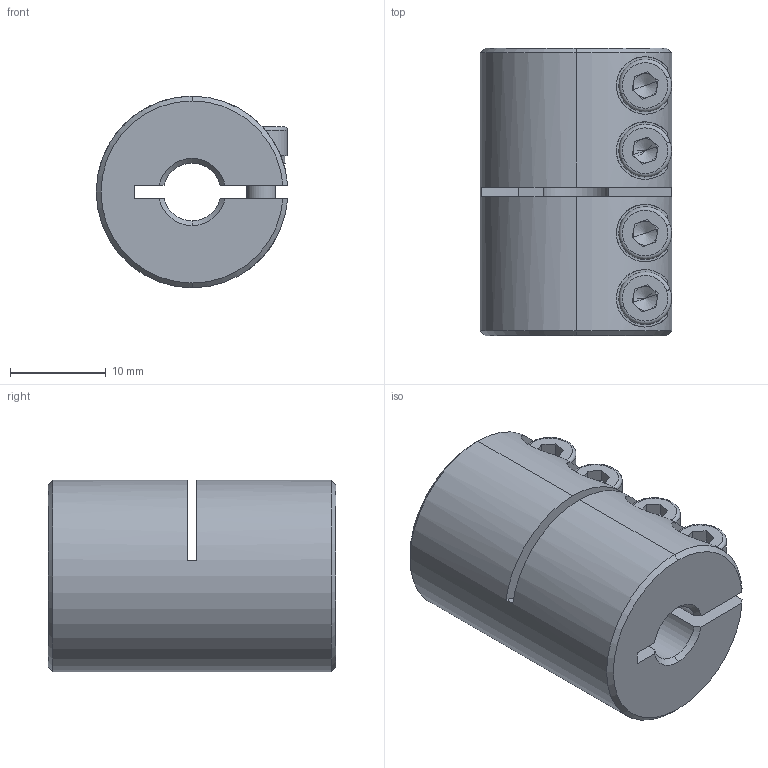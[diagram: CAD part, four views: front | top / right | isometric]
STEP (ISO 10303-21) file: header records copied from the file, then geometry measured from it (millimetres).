
FILE_DESCRIPTION (( 'STEP AP203' ), '1' );
FILE_NAME ('LL-B-D20L30-6-7.STEP', '2021-11-05T03:12:17', ( '' ), ( '' ), 'SwSTEP 2.0', 'SolidWorks 2018', '' );
FILE_SCHEMA (( 'CONFIG_CONTROL_DESIGN' ));
Length unit declared in the file: millimetre
Products named in the file (1): LL-B-D20L30-6-7
Bounding box: 19.98 x 30 x 20 mm (x, y, z)
Volume: 7736.4 mm3; surface area: 4541.7 mm2
Topology: 1 solids, 1 shells, 178 faces, 459 edges, 287 vertices
Faces by surface type: plane 89, cylinder 61, cone 20, torus 8
Entity records: 5821 total; most frequent: CARTESIAN_POINT 1349, DIRECTION 958, ORIENTED_EDGE 902, EDGE_CURVE 451, AXIS2_PLACEMENT_3D 368, VERTEX_POINT 287, VECTOR 222, LINE 222
